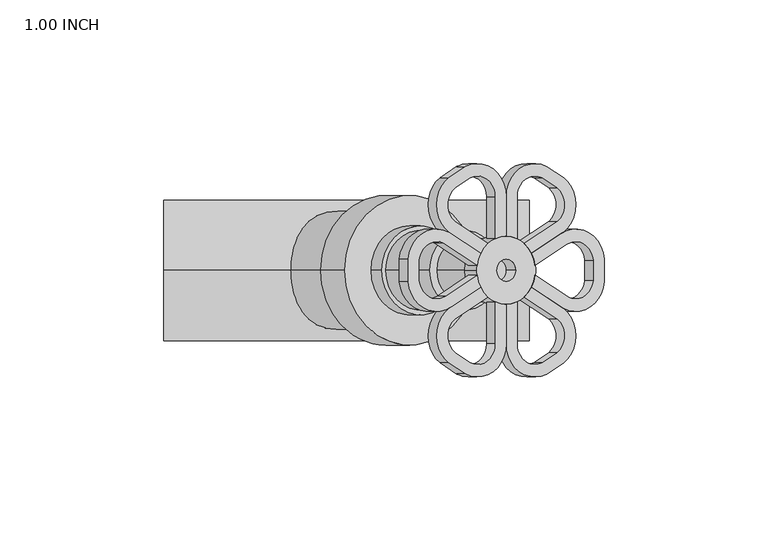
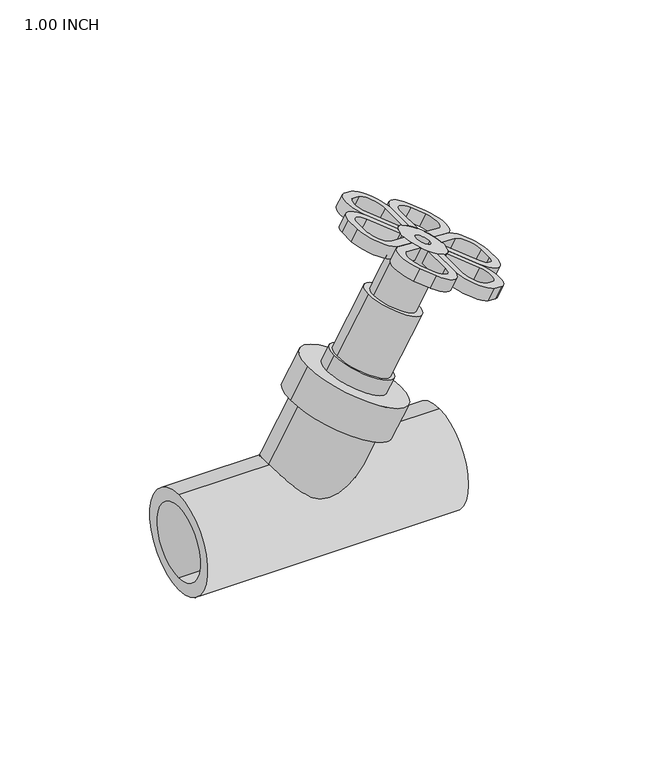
"""IFC4 building model written with IfcOpenShell, lengths in millimetres: valve geometry, Aquatherm - Inclined Check Valve without drain : 1.00 INCH."""

from ifc_helpers import new_model, si_unit, point, frame, frame_2d, origin, origin_2d, place, context, project, spatial, polyline, circle_curve, trimmed, segment, composite_curve, outline, extrude, source, transform, mapped, element, save
from ifc_brep_helpers import plane_surface, cylinder_surface, revolved_surface, advanced_brep


def valve_1_00_inch_02cf9404(model_context):
    return source(origin(), model_context, "Body", "SolidModel", [
        advanced_brep(
        [(123.3667275, 10.5951948, 86.0745316), (136.499744, 2.812243, 78.492181), (136.5198625, -4.0695455, 78.4805655), (124.1541595, -12.3087434, 85.6199075), (114.3647614, -5.7824779, 91.2718192), (115.4580816, -2.111949, 90.6405904), (125.6440611, -8.902602, 84.7597124), (133.2217492, -3.6900946, 80.3847322), (133.2377835, 2.4387005, 80.3754747), (125.0165059, 7.295638, 85.1220316), (115.4454846, 0.9149571, 90.6478633), (114.3371894, 4.5755028, 91.2877378), (126.0337275, 10.5951948, 90.6939111), (117.0041894, 4.5755028, 95.9071173), (118.1124846, 0.9149571, 95.2672428), (127.6835059, 7.295638, 89.7414111), (135.8832944, 2.4362397, 85.007261), (135.903563, -3.691799, 84.9955589), (128.3110611, -8.902602, 89.3790919), (118.1250816, -2.111949, 95.2599699), (117.0317614, -5.7824779, 95.8911987), (126.8211595, -12.3087434, 90.239287), (139.1720487, -4.0678412, 83.1084978), (139.1882331, 2.8147039, 83.0991537)],
        [
            (0, 1, circle_curve(frame((127.7586929, 1.8112639, 83.5388292), z_axis=(-0.49999999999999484, 0.0, -0.8660254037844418), x_axis=(0.4330127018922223, -0.866025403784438, -0.24999999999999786)), 10.1428098)),
            (1, 2, circle_curve(frame((106.5323937, -0.6194603, 95.7938387), z_axis=(-0.49999999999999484, 0.0, -0.8660254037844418), x_axis=(0.4330127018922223, -0.866025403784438, -0.24999999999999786)), 34.798)),
            (2, 3, circle_curve(frame((127.7643972, -3.0622214, 83.5355358), z_axis=(-0.49999999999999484, 0.0, -0.8660254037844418), x_axis=(0.4330127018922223, -0.866025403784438, -0.24999999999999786)), 10.1428098)),
            (3, 4),
            (4, 5, circle_curve(frame((106.5323937, -0.6194603, 95.7938387), z_axis=(0.49999999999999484, 0.0, 0.8660254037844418), x_axis=(0.41622412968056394, 0.8769321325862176, -0.2403071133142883)), 10.414)),
            (5, 6),
            (6, 7, circle_curve(frame((127.7643972, -3.0622214, 83.5355358), z_axis=(0.49999999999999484, 0.0, 0.8660254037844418), x_axis=(0.4330127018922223, -0.866025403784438, -0.24999999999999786)), 6.3328098)),
            (7, 8, circle_curve(frame((106.5323937, -0.6194603, 95.7938387), z_axis=(0.49999999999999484, 0.0, 0.8660254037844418), x_axis=(0.4330127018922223, -0.866025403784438, -0.24999999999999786)), 30.988)),
            (8, 9, circle_curve(frame((127.7586929, 1.8112639, 83.5388292), z_axis=(0.49999999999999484, 0.0, 0.8660254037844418), x_axis=(0.4330127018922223, -0.866025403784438, -0.24999999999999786)), 6.3328098)),
            (9, 10),
            (10, 11, circle_curve(frame((106.5266894, -0.6314972, 95.7971321), z_axis=(0.49999999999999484, 0.0, 0.8660254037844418), x_axis=(0.4330127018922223, -0.866025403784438, -0.24999999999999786)), 10.414)),
            (11, 0),
            (12, 13),
            (13, 14, circle_curve(frame((109.1936894, -0.6314972, 100.4165116), z_axis=(-0.49999999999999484, 0.0, -0.8660254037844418), x_axis=(0.4330127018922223, -0.866025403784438, -0.24999999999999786)), 10.414)),
            (14, 15),
            (15, 16, circle_curve(frame((130.4256929, 1.8112639, 88.1582087), z_axis=(-0.49999999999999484, 0.0, -0.8660254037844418), x_axis=(0.4330127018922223, -0.866025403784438, -0.24999999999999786)), 6.3328098)),
            (16, 17, circle_curve(frame((109.1993937, -0.6194603, 100.4132182), z_axis=(-0.49999999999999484, 0.0, -0.8660254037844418), x_axis=(0.4330127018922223, -0.866025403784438, -0.24999999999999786)), 30.988)),
            (17, 18, circle_curve(frame((130.4313972, -3.0622214, 88.1549153), z_axis=(-0.49999999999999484, 0.0, -0.8660254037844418), x_axis=(0.4330127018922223, -0.866025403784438, -0.24999999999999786)), 6.3328098)),
            (18, 19),
            (19, 20, circle_curve(frame((109.1993937, -0.6194603, 100.4132182), z_axis=(-0.49999999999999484, 0.0, -0.8660254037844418), x_axis=(0.41622412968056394, 0.8769321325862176, -0.2403071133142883)), 10.414)),
            (20, 21),
            (21, 22, circle_curve(frame((130.4313972, -3.0622214, 88.1549153), z_axis=(0.49999999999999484, 0.0, 0.8660254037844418), x_axis=(0.4330127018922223, -0.866025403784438, -0.24999999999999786)), 10.1428098)),
            (22, 23, circle_curve(frame((109.1993937, -0.6194603, 100.4132182), z_axis=(0.49999999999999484, 0.0, 0.8660254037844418), x_axis=(0.4330127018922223, -0.866025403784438, -0.24999999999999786)), 34.798)),
            (23, 12, circle_curve(frame((130.4256929, 1.8112639, 88.1582087), z_axis=(0.49999999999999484, 0.0, 0.8660254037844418), x_axis=(0.4330127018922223, -0.866025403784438, -0.24999999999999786)), 10.1428098)),
            (11, 13),
            (12, 0),
            (10, 14),
            (9, 15),
            (8, 16),
            (7, 17),
            (6, 18),
            (5, 19),
            (4, 20),
            (3, 21),
            (2, 22),
            (1, 23),
        ],
        [
            plane_surface(frame((132.1506584, -6.9726671, 81.0031267), z_axis=(-0.4999999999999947, 0.0, -0.8660254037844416), x_axis=(-0.7500000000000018, -0.5000000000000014, 0.43301270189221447))),
            plane_surface(frame((134.8176584, -6.9726671, 85.6225062), z_axis=(0.4999999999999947, 0.0, 0.8660254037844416), x_axis=(0.7500000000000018, 0.5000000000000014, -0.43301270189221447))),
            plane_surface(frame((114.3371894, 4.5755028, 91.2877378), z_axis=(-0.43301270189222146, 0.8660254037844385, 0.24999999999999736), x_axis=(0.49999999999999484, 0.0, 0.8660254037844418))),
            revolved_surface(polyline([(113.70308368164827, -9.650285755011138, 97.81301160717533), (111.0360836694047, -9.650285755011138, 93.19363208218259)]), (109.1936894, -0.6314972, 100.4165116), (0.49999999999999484, 0.0, 0.8660254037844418)),
            plane_surface(frame((125.0165059, 7.295638, 85.1220316), z_axis=(0.43301270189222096, -0.8660254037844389, -0.24999999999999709), x_axis=(0.49999999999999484, 0.0, 0.8660254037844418))),
            revolved_surface(polyline([(133.16787998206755, -3.6731102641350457, 86.57500625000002), (130.5008799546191, -3.6731102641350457, 81.95562669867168)]), (130.4256929, 1.8112639, 88.1582087), (0.49999999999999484, 0.0, 0.8660254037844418)),
            revolved_surface(polyline([(122.61759132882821, -27.455855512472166, 92.6662182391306), (119.95059130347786, -27.455855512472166, 88.04683869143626)]), (109.1993937, -0.6194603, 100.4132182), (0.49999999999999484, 0.0, 0.8660254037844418)),
            revolved_surface(polyline([(133.17358428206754, -8.546595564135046, 86.57171285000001), (130.5065842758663, -8.546595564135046, 81.95233333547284)]), (130.4313972, -3.0622214, 88.1549153), (0.49999999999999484, 0.0, 0.8660254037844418)),
            plane_surface(frame((115.4580816, -2.111949, 90.6405904), z_axis=(0.4330127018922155, 0.8660254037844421, -0.2499999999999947), x_axis=(0.49999999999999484, 0.0, 0.8660254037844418))),
            revolved_surface(polyline([(113.53395182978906, 8.51291092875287, 97.91065999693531), (110.86695178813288, 8.51291092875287, 93.29128042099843)]), (109.1993937, -0.6194603, 100.4132182), (0.49999999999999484, 0.0, 0.8660254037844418)),
            plane_surface(frame((124.1541595, -12.3087434, 85.6199075), z_axis=(-0.43301270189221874, -0.8660254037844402, 0.24999999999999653), x_axis=(0.49999999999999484, 0.0, 0.8660254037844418))),
            cylinder_surface(frame((130.4313972, -3.0622214, 88.1549153), z_axis=(-0.49999999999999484, 0.0, -0.8660254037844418), x_axis=(0.4330127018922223, -0.866025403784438, -0.24999999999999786)), 10.1428098),
            cylinder_surface(frame((109.1993937, -0.6194603, 100.4132182), z_axis=(-0.49999999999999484, 0.0, -0.8660254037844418), x_axis=(0.4330127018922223, -0.866025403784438, -0.24999999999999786)), 34.798),
            cylinder_surface(frame((130.4256929, 1.8112639, 88.1582087), z_axis=(-0.49999999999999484, 0.0, -0.8660254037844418), x_axis=(0.4330127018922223, -0.866025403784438, -0.24999999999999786)), 10.1428098),
        ],
        [
            (0, [[1, 2, 3, 4, 5, 6, 7, 8, 9, 10, 11, 12]]),
            (1, [[13, 14, 15, 16, 17, 18, 19, 20, 21, 22, 23, 24]]),
            (2, [[-12, 25, -13, 26]]),
            (3, [[-11, 27, -14, -25]]),
            (4, [[-10, 28, -15, -27]]),
            (5, [[-9, 29, -16, -28]]),
            (6, [[-8, 30, -17, -29]]),
            (7, [[-7, 31, -18, -30]]),
            (8, [[-6, 32, -19, -31]]),
            (9, [[-5, 33, -20, -32]]),
            (10, [[-4, 34, -21, -33]]),
            (11, [[-3, 35, -22, -34]]),
            (12, [[-2, 36, -23, -35]]),
            (13, [[-1, -26, -24, -36]]),
        ],
    ),
        advanced_brep(
        [(89.6866514, -11.8581892, 105.5197326), (76.5536349, -4.0752375, 113.1020832), (76.5335164, 2.8065511, 113.1136986), (88.8992194, 11.0457489, 105.9743567), (98.6886175, 4.5194835, 100.322445), (97.5952973, 0.8489546, 100.9536738), (87.4093178, 7.6396076, 106.8345518), (79.8316297, 2.4271002, 111.209532), (79.8155953, -3.7016949, 111.2187895), (88.036873, -8.5586324, 106.4722326), (97.6078943, -2.1779516, 100.9464008), (98.7161894, -5.8384972, 100.3065264), (92.3536514, -11.8581892, 110.1391121), (101.3831894, -5.8384972, 104.9259059), (100.2748943, -2.1779516, 105.5657804), (90.703873, -8.5586324, 111.0916121), (82.5040845, -3.6992341, 115.8257622), (82.4838159, 2.4288045, 115.8374643), (90.0763178, 7.6396076, 111.4539313), (100.2622973, 0.8489546, 105.5730533), (101.3556175, 4.5194835, 104.9418245), (91.5662194, 11.0457489, 110.5937362), (79.2153302, 2.8048467, 117.7245254), (79.1991458, -4.0776983, 117.7338695)],
        [
            (0, 1, circle_curve(frame((85.294686, -3.0742583, 108.055435), z_axis=(-0.49999999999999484, 0.0, -0.8660254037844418), x_axis=(-0.4330127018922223, 0.866025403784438, 0.24999999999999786)), 10.1428098)),
            (1, 2, circle_curve(frame((106.5209852, -0.6435341, 95.8004254), z_axis=(-0.49999999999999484, 0.0, -0.8660254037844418), x_axis=(-0.4330127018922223, 0.866025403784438, 0.24999999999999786)), 34.798)),
            (2, 3, circle_curve(frame((85.2889817, 1.7992269, 108.0587284), z_axis=(-0.49999999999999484, 0.0, -0.8660254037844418), x_axis=(-0.4330127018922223, 0.866025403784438, 0.24999999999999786)), 10.1428098)),
            (3, 4),
            (4, 5, circle_curve(frame((106.5209852, -0.6435341, 95.8004254), z_axis=(0.49999999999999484, 0.0, 0.8660254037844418), x_axis=(-0.41622412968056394, -0.8769321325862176, 0.2403071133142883)), 10.414)),
            (5, 6),
            (6, 7, circle_curve(frame((85.2889817, 1.7992269, 108.0587284), z_axis=(0.49999999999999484, 0.0, 0.8660254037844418), x_axis=(-0.4330127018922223, 0.866025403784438, 0.24999999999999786)), 6.3328098)),
            (7, 8, circle_curve(frame((106.5209852, -0.6435341, 95.8004254), z_axis=(0.49999999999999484, 0.0, 0.8660254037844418), x_axis=(-0.4330127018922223, 0.866025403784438, 0.24999999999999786)), 30.988)),
            (8, 9, circle_curve(frame((85.294686, -3.0742583, 108.055435), z_axis=(0.49999999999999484, 0.0, 0.8660254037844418), x_axis=(-0.4330127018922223, 0.866025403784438, 0.24999999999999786)), 6.3328098)),
            (9, 10),
            (10, 11, circle_curve(frame((106.5266894, -0.6314972, 95.7971321), z_axis=(0.49999999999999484, 0.0, 0.8660254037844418), x_axis=(-0.4330127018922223, 0.866025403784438, 0.24999999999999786)), 10.414)),
            (11, 0),
            (12, 13),
            (13, 14, circle_curve(frame((109.1936894, -0.6314972, 100.4165116), z_axis=(-0.49999999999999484, 0.0, -0.8660254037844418), x_axis=(-0.4330127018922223, 0.866025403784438, 0.24999999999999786)), 10.414)),
            (14, 15),
            (15, 16, circle_curve(frame((87.961686, -3.0742583, 112.6748145), z_axis=(-0.49999999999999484, 0.0, -0.8660254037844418), x_axis=(-0.4330127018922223, 0.866025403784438, 0.24999999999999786)), 6.3328098)),
            (16, 17, circle_curve(frame((109.1879852, -0.6435341, 100.4198049), z_axis=(-0.49999999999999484, 0.0, -0.8660254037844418), x_axis=(-0.4330127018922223, 0.866025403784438, 0.24999999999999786)), 30.988)),
            (17, 18, circle_curve(frame((87.9559817, 1.7992269, 112.6781079), z_axis=(-0.49999999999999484, 0.0, -0.8660254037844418), x_axis=(-0.4330127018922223, 0.866025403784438, 0.24999999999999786)), 6.3328098)),
            (18, 19),
            (19, 20, circle_curve(frame((109.1879852, -0.6435341, 100.4198049), z_axis=(-0.49999999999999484, 0.0, -0.8660254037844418), x_axis=(-0.41622412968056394, -0.8769321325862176, 0.2403071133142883)), 10.414)),
            (20, 21),
            (21, 22, circle_curve(frame((87.9559817, 1.7992269, 112.6781079), z_axis=(0.49999999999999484, 0.0, 0.8660254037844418), x_axis=(-0.4330127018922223, 0.866025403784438, 0.24999999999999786)), 10.1428098)),
            (22, 23, circle_curve(frame((109.1879852, -0.6435341, 100.4198049), z_axis=(0.49999999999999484, 0.0, 0.8660254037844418), x_axis=(-0.4330127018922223, 0.866025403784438, 0.24999999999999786)), 34.798)),
            (23, 12, circle_curve(frame((87.961686, -3.0742583, 112.6748145), z_axis=(0.49999999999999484, 0.0, 0.8660254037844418), x_axis=(-0.4330127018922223, 0.866025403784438, 0.24999999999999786)), 10.1428098)),
            (0, 12),
            (23, 1),
            (22, 2),
            (21, 3),
            (20, 4),
            (19, 5),
            (18, 6),
            (17, 7),
            (16, 8),
            (15, 9),
            (14, 10),
            (13, 11),
        ],
        [
            plane_surface(frame((80.9027205, 5.7096726, 110.5911375), z_axis=(-0.4999999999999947, 0.0, -0.8660254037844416), x_axis=(0.7500000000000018, 0.5000000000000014, -0.43301270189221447))),
            plane_surface(frame((83.5697205, 5.7096726, 115.210517), z_axis=(0.4999999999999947, 0.0, 0.8660254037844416), x_axis=(-0.7500000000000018, -0.5000000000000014, 0.43301270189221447))),
            cylinder_surface(frame((87.961686, -3.0742583, 112.6748145), z_axis=(-0.49999999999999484, 0.0, -0.8660254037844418), x_axis=(-0.4330127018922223, 0.866025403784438, 0.24999999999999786)), 10.1428098),
            cylinder_surface(frame((109.1879852, -0.6435341, 100.4198049), z_axis=(-0.49999999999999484, 0.0, -0.8660254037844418), x_axis=(-0.4330127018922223, 0.866025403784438, 0.24999999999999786)), 34.798),
            cylinder_surface(frame((87.9559817, 1.7992269, 112.6781079), z_axis=(-0.49999999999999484, 0.0, -0.8660254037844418), x_axis=(-0.4330127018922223, 0.866025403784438, 0.24999999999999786)), 10.1428098),
            plane_surface(frame((88.8992194, 11.0457489, 105.9743567), z_axis=(0.43301270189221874, 0.8660254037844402, -0.24999999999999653), x_axis=(0.49999999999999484, 0.0, 0.8660254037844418))),
            revolved_surface(polyline([(104.8534271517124, -9.77590532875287, 102.92236324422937), (102.1864271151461, -9.77590532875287, 98.30298367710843)]), (109.1879852, -0.6435341, 100.4198049), (0.49999999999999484, 0.0, 0.8660254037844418)),
            plane_surface(frame((97.5952973, 0.8489546, 100.9536738), z_axis=(-0.43301270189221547, -0.8660254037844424, 0.24999999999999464), x_axis=(0.49999999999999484, 0.0, 0.8660254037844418))),
            revolved_surface(polyline([(85.2137946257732, 7.283601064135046, 114.26131036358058), (82.5467945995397, 7.283601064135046, 109.64193081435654)]), (87.9559817, 1.7992269, 112.6781079), (0.49999999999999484, 0.0, 0.8660254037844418)),
            revolved_surface(polyline([(95.76978762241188, 26.192861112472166, 108.16680494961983), (93.10278759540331, 26.192861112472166, 103.54742539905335)]), (109.1879852, -0.6435341, 100.4198049), (0.49999999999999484, 0.0, 0.8660254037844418)),
            revolved_surface(polyline([(85.21949892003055, 2.410115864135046, 114.258016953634), (82.55249891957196, 2.410115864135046, 109.63863744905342)]), (87.961686, -3.0742583, 112.6748145), (0.49999999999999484, 0.0, 0.8660254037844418)),
            plane_surface(frame((88.036873, -8.5586324, 106.4722326), z_axis=(-0.43301270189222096, 0.8660254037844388, 0.24999999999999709), x_axis=(0.49999999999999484, 0.0, 0.8660254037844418))),
            revolved_surface(polyline([(104.68429514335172, 8.387291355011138, 103.02001163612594), (102.01729510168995, 8.387291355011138, 98.40063206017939)]), (109.1936894, -0.6314972, 100.4165116), (0.49999999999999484, 0.0, 0.8660254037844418)),
            plane_surface(frame((98.7161894, -5.8384972, 100.3065264), z_axis=(0.43301270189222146, -0.8660254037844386, -0.24999999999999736), x_axis=(0.49999999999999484, 0.0, 0.8660254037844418))),
        ],
        [
            (0, [[1, 2, 3, 4, 5, 6, 7, 8, 9, 10, 11, 12]]),
            (1, [[13, 14, 15, 16, 17, 18, 19, 20, 21, 22, 23, 24]]),
            (2, [[-1, 25, -24, 26]]),
            (3, [[-2, -26, -23, 27]]),
            (4, [[-3, -27, -22, 28]]),
            (5, [[-4, -28, -21, 29]]),
            (6, [[-5, -29, -20, 30]]),
            (7, [[-6, -30, -19, 31]]),
            (8, [[-7, -31, -18, 32]]),
            (9, [[-8, -32, -17, 33]]),
            (10, [[-9, -33, -16, 34]]),
            (11, [[-10, -34, -15, 35]]),
            (12, [[-11, -35, -14, 36]]),
            (13, [[-12, -36, -13, -25]]),
        ],
    ),
        advanced_brep(
        [(106.5266894, 21.8218868, 95.7971321), (106.5266894, 9.7825028, 95.7971321), (103.2271327, 9.0605251, 97.7021321), (103.2271327, 21.8218868, 97.7021321), (95.4826896, 27.5919762, 102.1733883), (90.8765264, 24.5482255, 104.832758), (90.764675, 14.350322, 104.8973354), (100.9506545, 7.559669, 99.0164574), (98.7444179, 4.6310844, 100.2902286), (88.9550198, 11.1573498, 105.9421403), (88.9602518, 27.6286901, 105.9391196), (94.1140684, 31.086147, 102.9635622), (109.1936894, 21.8218868, 100.4165116), (96.7899674, 31.0634274, 107.5778039), (91.6185667, 27.6426517, 110.5635135), (91.6220198, 11.1573498, 110.5615198), (101.4114179, 4.6310844, 104.9096081), (103.6176545, 7.559669, 103.6358369), (93.431675, 14.350322, 109.5167149), (93.5522115, 24.5342638, 109.4471231), (98.1407907, 27.6146957, 106.7979057), (105.8941327, 21.8218868, 102.3215116), (105.8941327, 9.0605251, 102.3215116), (109.1936894, 9.7825028, 100.4165116)],
        [
            (0, 1),
            (1, 2, circle_curve(frame((106.5266894, -0.6314972, 95.7971321), z_axis=(0.49999999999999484, 0.0, 0.8660254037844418), x_axis=(-0.8660254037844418, 0.0, 0.49999999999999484)), 10.414)),
            (2, 3),
            (3, 4, circle_curve(frame((97.7427585, 21.8218868, 100.868537), z_axis=(0.49999999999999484, 0.0, 0.8660254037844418), x_axis=(-0.8660254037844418, 0.0, 0.49999999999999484)), 6.3328098)),
            (4, 5, circle_curve(frame((106.532865, -0.6197745, 95.7935666), z_axis=(0.49999999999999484, 0.0, 0.8660254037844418), x_axis=(-0.8660254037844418, 0.0, 0.49999999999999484)), 30.988)),
            (5, 6, circle_curve(frame((94.0847925, 19.3908484, 102.9804647), z_axis=(0.49999999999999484, 0.0, 0.8660254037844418), x_axis=(-0.8660254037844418, 0.0, 0.49999999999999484)), 6.3328098)),
            (6, 7),
            (7, 8, circle_curve(frame((106.532865, -0.6197745, 95.7935666), z_axis=(0.4999999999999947, 0.0, 0.8660254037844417), x_axis=(0.4495870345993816, 0.8546901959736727, -0.2595691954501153)), 10.414)),
            (8, 9),
            (9, 10, circle_curve(frame((94.0847925, 19.3908484, 102.9804647), z_axis=(-0.49999999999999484, 0.0, -0.8660254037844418), x_axis=(-0.8660254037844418, 0.0, 0.49999999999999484)), 10.1428098)),
            (10, 11, circle_curve(frame((106.532865, -0.6197745, 95.7935666), z_axis=(-0.49999999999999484, 0.0, -0.8660254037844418), x_axis=(-0.8660254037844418, 0.0, 0.49999999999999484)), 34.798)),
            (11, 0, circle_curve(frame((97.7427585, 21.8218868, 100.868537), z_axis=(-0.49999999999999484, 0.0, -0.8660254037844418), x_axis=(-0.8660254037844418, 0.0, 0.49999999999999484)), 10.1428098)),
            (12, 13, circle_curve(frame((100.4097585, 21.8218868, 105.4879165), z_axis=(0.49999999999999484, 0.0, 0.8660254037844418), x_axis=(-0.8660254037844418, 0.0, 0.49999999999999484)), 10.1428098)),
            (13, 14, circle_curve(frame((109.199865, -0.6197745, 100.4129461), z_axis=(0.49999999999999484, 0.0, 0.8660254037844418), x_axis=(-0.8660254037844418, 0.0, 0.49999999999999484)), 34.798)),
            (14, 15, circle_curve(frame((96.7517925, 19.3908484, 107.5998442), z_axis=(0.49999999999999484, 0.0, 0.8660254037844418), x_axis=(-0.8660254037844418, 0.0, 0.49999999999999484)), 10.1428098)),
            (15, 16),
            (16, 17, circle_curve(frame((109.199865, -0.6197745, 100.4129461), z_axis=(-0.4999999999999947, 0.0, -0.8660254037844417), x_axis=(0.4495870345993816, 0.8546901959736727, -0.2595691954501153)), 10.414)),
            (17, 18),
            (18, 19, circle_curve(frame((96.7517925, 19.3908484, 107.5998442), z_axis=(-0.49999999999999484, 0.0, -0.8660254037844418), x_axis=(-0.8660254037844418, 0.0, 0.49999999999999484)), 6.3328098)),
            (19, 20, circle_curve(frame((109.199865, -0.6197745, 100.4129461), z_axis=(-0.49999999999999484, 0.0, -0.8660254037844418), x_axis=(-0.8660254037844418, 0.0, 0.49999999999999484)), 30.988)),
            (20, 21, circle_curve(frame((100.4097585, 21.8218868, 105.4879165), z_axis=(-0.49999999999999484, 0.0, -0.8660254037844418), x_axis=(-0.8660254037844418, 0.0, 0.49999999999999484)), 6.3328098)),
            (21, 22),
            (22, 23, circle_curve(frame((109.1936894, -0.6314972, 100.4165116), z_axis=(-0.49999999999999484, 0.0, -0.8660254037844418), x_axis=(-0.8660254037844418, 0.0, 0.49999999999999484)), 10.414)),
            (23, 12),
            (11, 13),
            (12, 0),
            (10, 14),
            (9, 15),
            (8, 16),
            (7, 17),
            (6, 18),
            (5, 19),
            (4, 20),
            (3, 21),
            (2, 22),
            (1, 23),
        ],
        [
            plane_surface(frame((106.5266894, 7.6235028, 95.7971321), z_axis=(-0.49999999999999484, 0.0, -0.8660254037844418), x_axis=(0.0, -1.0, 0.0))),
            plane_surface(frame((109.1936894, 7.6235028, 100.4165116), z_axis=(0.49999999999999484, 0.0, 0.8660254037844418), x_axis=(0.0, 1.0, 0.0))),
            cylinder_surface(frame((100.4097585, 21.8218868, 105.4879165), z_axis=(-0.49999999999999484, 0.0, -0.8660254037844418), x_axis=(-0.8660254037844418, 0.0, 0.49999999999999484)), 10.1428098),
            cylinder_surface(frame((109.199865, -0.6197745, 100.4129461), z_axis=(-0.49999999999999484, 0.0, -0.8660254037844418), x_axis=(-0.8660254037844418, 0.0, 0.49999999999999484)), 34.798),
            cylinder_surface(frame((96.7517925, 19.3908484, 107.5998442), z_axis=(-0.49999999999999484, 0.0, -0.8660254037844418), x_axis=(-0.8660254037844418, 0.0, 0.49999999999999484)), 10.1428098),
            plane_surface(frame((98.7444179, 4.6310844, 100.2902286), z_axis=(-0.433012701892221, -0.8660254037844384, 0.24999999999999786), x_axis=(0.49999999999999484, 0.0, 0.8660254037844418))),
            revolved_surface(polyline([(113.88186440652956, 8.280969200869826, 97.70979254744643), (111.21486436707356, 8.280969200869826, 93.09041297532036)]), (109.199865, -0.6197745, 100.4129461), (0.49999999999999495, 0.0, 0.866025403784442)),
            plane_surface(frame((90.764675, 14.350322, 104.8973354), z_axis=(0.4330127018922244, 0.8660254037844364, -0.2499999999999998), x_axis=(0.49999999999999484, 0.0, 0.8660254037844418))),
            revolved_surface(polyline([(91.26741833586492, 19.3908484, 110.76624909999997), (88.60041832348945, 19.3908484, 106.14686957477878)]), (96.7517925, 19.3908484, 107.5998442), (0.49999999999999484, 0.0, 0.8660254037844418)),
            revolved_surface(polyline([(82.36346982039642, -0.6197745, 115.9069461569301), (79.69646977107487, -0.6197745, 111.28756656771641)]), (109.199865, -0.6197745, 100.4129461), (0.49999999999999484, 0.0, 0.8660254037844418)),
            revolved_surface(polyline([(94.92538434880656, 21.8218868, 108.65432142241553), (92.258384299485, 21.8218868, 104.03494183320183)]), (100.4097585, 21.8218868, 105.4879165), (0.49999999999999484, 0.0, 0.8660254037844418)),
            plane_surface(frame((103.2271327, 9.0605251, 97.7021321), z_axis=(-0.8660254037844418, 0.0, 0.49999999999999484), x_axis=(0.49999999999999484, 0.0, 0.8660254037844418))),
            revolved_surface(polyline([(100.17490086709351, -0.6314972, 105.62351163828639), (97.50790084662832, -0.6314972, 101.00413209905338)]), (109.1936894, -0.6314972, 100.4165116), (0.49999999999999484, 0.0, 0.8660254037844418)),
            plane_surface(frame((106.5266894, 21.8218868, 95.7971321), z_axis=(0.8660254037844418, 0.0, -0.49999999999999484), x_axis=(0.49999999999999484, 0.0, 0.8660254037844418))),
        ],
        [
            (0, [[1, 2, 3, 4, 5, 6, 7, 8, 9, 10, 11, 12]]),
            (1, [[13, 14, 15, 16, 17, 18, 19, 20, 21, 22, 23, 24]]),
            (2, [[-12, 25, -13, 26]]),
            (3, [[-11, 27, -14, -25]]),
            (4, [[-10, 28, -15, -27]]),
            (5, [[-9, 29, -16, -28]]),
            (6, [[-8, 30, -17, -29]]),
            (7, [[-7, 31, -18, -30]]),
            (8, [[-6, 32, -19, -31]]),
            (9, [[-5, 33, -20, -32]]),
            (10, [[-4, 34, -21, -33]]),
            (11, [[-3, 35, -22, -34]]),
            (12, [[-2, 36, -23, -35]]),
            (13, [[-1, -26, -24, -36]]),
        ],
    ),
        advanced_brep(
        [(106.5266894, 21.8218868, 95.7971321), (118.9304115, 31.0634274, 88.6358398), (124.1018122, 27.6426517, 85.6501302), (124.0983591, 11.1573498, 85.6521239), (114.3089609, 4.6310844, 91.3040355), (112.1027244, 7.559669, 92.5778068), (122.2887039, 14.350322, 86.6969288), (122.1681674, 24.5342638, 86.7665206), (117.5795882, 27.6146957, 89.415738), (109.8262462, 21.8218868, 93.8921321), (109.8262462, 9.0605251, 93.8921321), (106.5266894, 9.7825028, 95.7971321), (109.1936894, 21.8218868, 100.4165116), (109.1936894, 9.7825028, 100.4165116), (112.4932462, 9.0605251, 98.5115116), (112.4932462, 21.8218868, 98.5115116), (120.2376892, 27.5919762, 94.0402553), (124.8438525, 24.5482255, 91.3808857), (124.9557039, 14.350322, 91.3163083), (114.7697244, 7.559669, 97.1971863), (116.9759609, 4.6310844, 95.923415), (126.7653591, 11.1573498, 90.2715034), (126.760127, 27.6286901, 90.2745241), (121.6063105, 31.086147, 93.2500815)],
        [
            (0, 1, circle_curve(frame((115.3106204, 21.8218868, 90.7257272), z_axis=(-0.49999999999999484, 0.0, -0.8660254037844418), x_axis=(0.8660254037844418, 0.0, -0.49999999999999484)), 10.1428098)),
            (1, 2, circle_curve(frame((106.5205139, -0.6197745, 95.8006976), z_axis=(-0.49999999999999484, 0.0, -0.8660254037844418), x_axis=(0.8660254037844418, 0.0, -0.49999999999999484)), 34.798)),
            (2, 3, circle_curve(frame((118.9685864, 19.3908484, 88.6137995), z_axis=(-0.49999999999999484, 0.0, -0.8660254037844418), x_axis=(0.8660254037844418, 0.0, -0.49999999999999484)), 10.1428098)),
            (3, 4),
            (4, 5, circle_curve(frame((106.5205139, -0.6197745, 95.8006976), z_axis=(0.4999999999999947, 0.0, 0.8660254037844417), x_axis=(-0.4495870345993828, 0.854690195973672, 0.2595691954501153)), 10.414)),
            (5, 6),
            (6, 7, circle_curve(frame((118.9685864, 19.3908484, 88.6137995), z_axis=(0.49999999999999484, 0.0, 0.8660254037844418), x_axis=(0.8660254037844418, 0.0, -0.49999999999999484)), 6.3328098)),
            (7, 8, circle_curve(frame((106.5205139, -0.6197745, 95.8006976), z_axis=(0.49999999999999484, 0.0, 0.8660254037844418), x_axis=(0.8660254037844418, 0.0, -0.49999999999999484)), 30.988)),
            (8, 9, circle_curve(frame((115.3106204, 21.8218868, 90.7257272), z_axis=(0.49999999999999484, 0.0, 0.8660254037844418), x_axis=(0.8660254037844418, 0.0, -0.49999999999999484)), 6.3328098)),
            (9, 10),
            (10, 11, circle_curve(frame((106.5266894, -0.6314972, 95.7971321), z_axis=(0.49999999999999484, 0.0, 0.8660254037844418), x_axis=(0.8660254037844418, 0.0, -0.49999999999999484)), 10.414)),
            (11, 0),
            (12, 13),
            (13, 14, circle_curve(frame((109.1936894, -0.6314972, 100.4165116), z_axis=(-0.49999999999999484, 0.0, -0.8660254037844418), x_axis=(0.8660254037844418, 0.0, -0.49999999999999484)), 10.414)),
            (14, 15),
            (15, 16, circle_curve(frame((117.9776204, 21.8218868, 95.3451067), z_axis=(-0.49999999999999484, 0.0, -0.8660254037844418), x_axis=(0.8660254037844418, 0.0, -0.49999999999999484)), 6.3328098)),
            (16, 17, circle_curve(frame((109.1875139, -0.6197745, 100.4200771), z_axis=(-0.49999999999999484, 0.0, -0.8660254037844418), x_axis=(0.8660254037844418, 0.0, -0.49999999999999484)), 30.988)),
            (17, 18, circle_curve(frame((121.6355864, 19.3908484, 93.233179), z_axis=(-0.49999999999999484, 0.0, -0.8660254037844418), x_axis=(0.8660254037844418, 0.0, -0.49999999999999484)), 6.3328098)),
            (18, 19),
            (19, 20, circle_curve(frame((109.1875139, -0.6197745, 100.4200771), z_axis=(-0.4999999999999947, 0.0, -0.8660254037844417), x_axis=(-0.4495870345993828, 0.854690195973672, 0.2595691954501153)), 10.414)),
            (20, 21),
            (21, 22, circle_curve(frame((121.6355864, 19.3908484, 93.233179), z_axis=(0.49999999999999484, 0.0, 0.8660254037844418), x_axis=(0.8660254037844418, 0.0, -0.49999999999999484)), 10.1428098)),
            (22, 23, circle_curve(frame((109.1875139, -0.6197745, 100.4200771), z_axis=(0.49999999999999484, 0.0, 0.8660254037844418), x_axis=(0.8660254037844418, 0.0, -0.49999999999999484)), 34.798)),
            (23, 12, circle_curve(frame((117.9776204, 21.8218868, 95.3451067), z_axis=(0.49999999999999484, 0.0, 0.8660254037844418), x_axis=(0.8660254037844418, 0.0, -0.49999999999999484)), 10.1428098)),
            (11, 13),
            (12, 0),
            (10, 14),
            (9, 15),
            (8, 16),
            (7, 17),
            (6, 18),
            (5, 19),
            (4, 20),
            (3, 21),
            (2, 22),
            (1, 23),
        ],
        [
            plane_surface(frame((124.0945513, 21.8218868, 85.6543223), z_axis=(-0.49999999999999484, 0.0, -0.8660254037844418), x_axis=(0.0, -1.0, 0.0))),
            plane_surface(frame((126.7615513, 21.8218868, 90.2737018), z_axis=(0.49999999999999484, 0.0, 0.8660254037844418), x_axis=(0.0, 1.0, 0.0))),
            plane_surface(frame((106.5266894, 9.7825028, 95.7971321), z_axis=(-0.8660254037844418, 0.0, 0.49999999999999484), x_axis=(0.49999999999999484, 0.0, 0.8660254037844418))),
            revolved_surface(polyline([(118.21247795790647, -0.6314972, 95.20951160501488), (115.54547795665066, -0.6314972, 90.59013209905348)]), (109.1936894, -0.6314972, 100.4165116), (0.49999999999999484, 0.0, 0.8660254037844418)),
            plane_surface(frame((109.8262462, 21.8218868, 93.8921321), z_axis=(0.8660254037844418, 0.0, -0.49999999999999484), x_axis=(0.49999999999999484, 0.0, 0.8660254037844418))),
            revolved_surface(polyline([(123.46199456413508, 21.8218868, 92.17870180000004), (120.79499455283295, 21.8218868, 87.5593222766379)]), (117.9776204, 21.8218868, 95.3451067), (0.49999999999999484, 0.0, 0.8660254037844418)),
            revolved_surface(polyline([(136.02390911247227, -0.6197745, 84.92607710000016), (133.35690908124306, -0.6197745, 80.30669754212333)]), (109.1875139, -0.6197745, 100.4200771), (0.49999999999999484, 0.0, 0.8660254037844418)),
            revolved_surface(polyline([(127.11996057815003, 19.3908484, 90.06677412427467), (124.45296056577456, 19.3908484, 85.44739459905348)]), (121.6355864, 19.3908484, 93.233179), (0.49999999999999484, 0.0, 0.8660254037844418)),
            plane_surface(frame((112.1027244, 7.559669, 92.5778068), z_axis=(-0.4330127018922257, 0.8660254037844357, 0.24999999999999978), x_axis=(0.49999999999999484, 0.0, 0.8660254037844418))),
            revolved_surface(polyline([(104.50551452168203, 8.28096920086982, 103.1232307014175), (101.83851446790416, 8.28096920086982, 98.50385110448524)]), (109.1875139, -0.6197745, 100.4200771), (0.49999999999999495, 0.0, 0.866025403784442)),
            plane_surface(frame((124.0983591, 11.1573498, 85.6521239), z_axis=(0.4330127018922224, -0.8660254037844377, -0.24999999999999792), x_axis=(0.49999999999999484, 0.0, 0.8660254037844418))),
            cylinder_surface(frame((121.6355864, 19.3908484, 93.233179), z_axis=(-0.49999999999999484, 0.0, -0.8660254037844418), x_axis=(0.8660254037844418, 0.0, -0.49999999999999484)), 10.1428098),
            cylinder_surface(frame((109.1875139, -0.6197745, 100.4200771), z_axis=(-0.49999999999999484, 0.0, -0.8660254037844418), x_axis=(0.8660254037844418, 0.0, -0.49999999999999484)), 34.798),
            cylinder_surface(frame((117.9776204, 21.8218868, 95.3451067), z_axis=(-0.49999999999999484, 0.0, -0.8660254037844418), x_axis=(0.8660254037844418, 0.0, -0.49999999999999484)), 10.1428098),
        ],
        [
            (0, [[1, 2, 3, 4, 5, 6, 7, 8, 9, 10, 11, 12]]),
            (1, [[13, 14, 15, 16, 17, 18, 19, 20, 21, 22, 23, 24]]),
            (2, [[-12, 25, -13, 26]]),
            (3, [[-11, 27, -14, -25]]),
            (4, [[-10, 28, -15, -27]]),
            (5, [[-9, 29, -16, -28]]),
            (6, [[-8, 30, -17, -29]]),
            (7, [[-7, 31, -18, -30]]),
            (8, [[-6, 32, -19, -31]]),
            (9, [[-5, 33, -20, -32]]),
            (10, [[-4, 34, -21, -33]]),
            (11, [[-3, 35, -22, -34]]),
            (12, [[-2, 36, -23, -35]]),
            (13, [[-1, -26, -24, -36]]),
        ],
    ),
        advanced_brep(
        [(106.5266894, -23.0848812, 95.7971321), (94.1229674, -32.3264219, 102.9584244), (88.9515667, -28.9056461, 105.9441339), (88.9550198, -12.4203442, 105.9421403), (98.7444179, -5.8940788, 100.2902286), (100.9506545, -8.8226635, 99.0164574), (90.764675, -15.6133165, 104.8973354), (90.8852115, -25.7972583, 104.8277436), (95.4737907, -28.8776902, 102.1785262), (103.2271327, -23.0848812, 97.7021321), (103.2271327, -10.3235195, 97.7021321), (106.5266894, -11.0454972, 95.7971321), (109.1936894, -23.0848812, 100.4165116), (109.1936894, -11.0454972, 100.4165116), (105.8941327, -10.3235195, 102.3215116), (105.8941327, -23.0848812, 102.3215116), (98.1496896, -28.8549706, 106.7927679), (93.5435264, -25.8112199, 109.4521375), (93.431675, -15.6133165, 109.5167149), (103.6176545, -8.8226635, 103.6358369), (101.4114179, -5.8940788, 104.9096081), (91.6220198, -12.4203442, 110.5615198), (91.6272518, -28.8916845, 110.5584991), (96.7810684, -32.3491414, 107.5829417)],
        [
            (0, 1, circle_curve(frame((97.7427585, -23.0848812, 100.868537), z_axis=(-0.49999999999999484, 0.0, -0.8660254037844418), x_axis=(-0.8660254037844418, 0.0, 0.49999999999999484)), 10.1428098)),
            (1, 2, circle_curve(frame((106.532865, -0.6432199, 95.7935666), z_axis=(-0.49999999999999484, 0.0, -0.8660254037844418), x_axis=(-0.8660254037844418, 0.0, 0.49999999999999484)), 34.798)),
            (2, 3, circle_curve(frame((94.0847925, -20.6538429, 102.9804647), z_axis=(-0.49999999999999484, 0.0, -0.8660254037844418), x_axis=(-0.8660254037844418, 0.0, 0.49999999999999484)), 10.1428098)),
            (3, 4),
            (4, 5, circle_curve(frame((106.532865, -0.6432199, 95.7935666), z_axis=(0.4999999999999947, 0.0, 0.8660254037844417), x_axis=(0.4495870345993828, -0.854690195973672, -0.2595691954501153)), 10.414)),
            (5, 6),
            (6, 7, circle_curve(frame((94.0847925, -20.6538429, 102.9804647), z_axis=(0.49999999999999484, 0.0, 0.8660254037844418), x_axis=(-0.8660254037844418, 0.0, 0.49999999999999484)), 6.3328098)),
            (7, 8, circle_curve(frame((106.532865, -0.6432199, 95.7935666), z_axis=(0.49999999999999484, 0.0, 0.8660254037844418), x_axis=(-0.8660254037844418, 0.0, 0.49999999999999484)), 30.988)),
            (8, 9, circle_curve(frame((97.7427585, -23.0848812, 100.868537), z_axis=(0.49999999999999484, 0.0, 0.8660254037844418), x_axis=(-0.8660254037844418, 0.0, 0.49999999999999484)), 6.3328098)),
            (9, 10),
            (10, 11, circle_curve(frame((106.5266894, -0.6314972, 95.7971321), z_axis=(0.49999999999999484, 0.0, 0.8660254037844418), x_axis=(-0.8660254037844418, 0.0, 0.49999999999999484)), 10.414)),
            (11, 0),
            (12, 13),
            (13, 14, circle_curve(frame((109.1936894, -0.6314972, 100.4165116), z_axis=(-0.49999999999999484, 0.0, -0.8660254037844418), x_axis=(-0.8660254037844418, 0.0, 0.49999999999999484)), 10.414)),
            (14, 15),
            (15, 16, circle_curve(frame((100.4097585, -23.0848812, 105.4879165), z_axis=(-0.49999999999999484, 0.0, -0.8660254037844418), x_axis=(-0.8660254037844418, 0.0, 0.49999999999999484)), 6.3328098)),
            (16, 17, circle_curve(frame((109.199865, -0.6432199, 100.4129461), z_axis=(-0.49999999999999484, 0.0, -0.8660254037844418), x_axis=(-0.8660254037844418, 0.0, 0.49999999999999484)), 30.988)),
            (17, 18, circle_curve(frame((96.7517925, -20.6538429, 107.5998442), z_axis=(-0.49999999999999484, 0.0, -0.8660254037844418), x_axis=(-0.8660254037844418, 0.0, 0.49999999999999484)), 6.3328098)),
            (18, 19),
            (19, 20, circle_curve(frame((109.199865, -0.6432199, 100.4129461), z_axis=(-0.4999999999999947, 0.0, -0.8660254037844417), x_axis=(0.4495870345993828, -0.854690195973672, -0.2595691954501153)), 10.414)),
            (20, 21),
            (21, 22, circle_curve(frame((96.7517925, -20.6538429, 107.5998442), z_axis=(0.49999999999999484, 0.0, 0.8660254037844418), x_axis=(-0.8660254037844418, 0.0, 0.49999999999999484)), 10.1428098)),
            (22, 23, circle_curve(frame((109.199865, -0.6432199, 100.4129461), z_axis=(0.49999999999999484, 0.0, 0.8660254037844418), x_axis=(-0.8660254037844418, 0.0, 0.49999999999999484)), 34.798)),
            (23, 12, circle_curve(frame((100.4097585, -23.0848812, 105.4879165), z_axis=(0.49999999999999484, 0.0, 0.8660254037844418), x_axis=(-0.8660254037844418, 0.0, 0.49999999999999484)), 10.1428098)),
            (0, 12),
            (23, 1),
            (22, 2),
            (21, 3),
            (20, 4),
            (19, 5),
            (18, 6),
            (17, 7),
            (16, 8),
            (15, 9),
            (14, 10),
            (13, 11),
        ],
        [
            plane_surface(frame((88.9588276, -23.0848812, 105.9399419), z_axis=(-0.49999999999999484, 0.0, -0.8660254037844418), x_axis=(0.0, 1.0, 0.0))),
            plane_surface(frame((91.6258276, -23.0848812, 110.5593214), z_axis=(0.49999999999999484, 0.0, 0.8660254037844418), x_axis=(0.0, -1.0, 0.0))),
            cylinder_surface(frame((100.4097585, -23.0848812, 105.4879165), z_axis=(-0.49999999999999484, 0.0, -0.8660254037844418), x_axis=(-0.8660254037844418, 0.0, 0.49999999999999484)), 10.1428098),
            cylinder_surface(frame((109.199865, -0.6432199, 100.4129461), z_axis=(-0.49999999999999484, 0.0, -0.8660254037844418), x_axis=(-0.8660254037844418, 0.0, 0.49999999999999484)), 34.798),
            cylinder_surface(frame((96.7517925, -20.6538429, 107.5998442), z_axis=(-0.49999999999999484, 0.0, -0.8660254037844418), x_axis=(-0.8660254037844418, 0.0, 0.49999999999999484)), 10.1428098),
            plane_surface(frame((88.9550198, -12.4203442, 105.9421403), z_axis=(-0.4330127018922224, 0.8660254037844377, 0.24999999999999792), x_axis=(0.49999999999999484, 0.0, 0.8660254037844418))),
            revolved_surface(polyline([(113.88186440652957, -9.54396360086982, 97.70979254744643), (111.21486436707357, -9.54396360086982, 93.09041297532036)]), (109.199865, -0.6432199, 100.4129461), (0.49999999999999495, 0.0, 0.866025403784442)),
            plane_surface(frame((100.9506545, -8.8226635, 99.0164574), z_axis=(0.4330127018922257, -0.8660254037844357, -0.24999999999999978), x_axis=(0.49999999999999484, 0.0, 0.8660254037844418))),
            revolved_surface(polyline([(91.26741833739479, -20.6538429, 110.76624910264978), (88.60041831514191, -20.6538429, 106.14686956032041)]), (96.7517925, -20.6538429, 107.5998442), (0.49999999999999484, 0.0, 0.8660254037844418)),
            revolved_surface(polyline([(82.36346982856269, -0.6432199, 115.9069461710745), (79.69646978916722, -0.6432199, 111.28756659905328)]), (109.199865, -0.6432199, 100.4129461), (0.49999999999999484, 0.0, 0.8660254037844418)),
            revolved_surface(polyline([(94.92538434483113, -23.0848812, 108.6543214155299), (92.25838433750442, -23.0848812, 104.0349418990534)]), (100.4097585, -23.0848812, 105.4879165), (0.49999999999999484, 0.0, 0.8660254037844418)),
            plane_surface(frame((103.2271327, -23.0848812, 97.7021321), z_axis=(-0.8660254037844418, 0.0, 0.49999999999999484), x_axis=(0.49999999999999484, 0.0, 0.8660254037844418))),
            revolved_surface(polyline([(100.17490086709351, -0.6314972, 105.62351163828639), (97.50790084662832, -0.6314972, 101.00413209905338)]), (109.1936894, -0.6314972, 100.4165116), (0.49999999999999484, 0.0, 0.8660254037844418)),
            plane_surface(frame((106.5266894, -11.0454972, 95.7971321), z_axis=(0.8660254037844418, 0.0, -0.49999999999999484), x_axis=(0.49999999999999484, 0.0, 0.8660254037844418))),
        ],
        [
            (0, [[1, 2, 3, 4, 5, 6, 7, 8, 9, 10, 11, 12]]),
            (1, [[13, 14, 15, 16, 17, 18, 19, 20, 21, 22, 23, 24]]),
            (2, [[-1, 25, -24, 26]]),
            (3, [[-2, -26, -23, 27]]),
            (4, [[-3, -27, -22, 28]]),
            (5, [[-4, -28, -21, 29]]),
            (6, [[-5, -29, -20, 30]]),
            (7, [[-6, -30, -19, 31]]),
            (8, [[-7, -31, -18, 32]]),
            (9, [[-8, -32, -17, 33]]),
            (10, [[-9, -33, -16, 34]]),
            (11, [[-10, -34, -15, 35]]),
            (12, [[-11, -35, -14, 36]]),
            (13, [[-12, -36, -13, -25]]),
        ],
    ),
        advanced_brep(
        [(106.5266894, -23.0848812, 95.7971321), (106.5266894, -11.0454972, 95.7971321), (109.8262462, -10.3235195, 93.8921321), (109.8262462, -23.0848812, 93.8921321), (117.5706892, -28.8549706, 89.4208758), (122.1768525, -25.8112199, 86.7615062), (122.2887039, -15.6133165, 86.6969288), (112.1027244, -8.8226635, 92.5778068), (114.3089609, -5.8940788, 91.3040355), (124.0983591, -12.4203442, 85.6521239), (124.093127, -28.8916845, 85.6551446), (118.9393105, -32.3491414, 88.630702), (109.1936894, -23.0848812, 100.4165116), (121.5974115, -32.3264219, 93.2552193), (126.7688122, -28.9056461, 90.2695097), (126.7653591, -12.4203442, 90.2715034), (116.9759609, -5.8940788, 95.923415), (114.7697244, -8.8226635, 97.1971863), (124.9557039, -15.6133165, 91.3163083), (124.8351674, -25.7972583, 91.3859001), (120.2465882, -28.8776902, 94.0351175), (112.4932462, -23.0848812, 98.5115116), (112.4932462, -10.3235195, 98.5115116), (109.1936894, -11.0454972, 100.4165116)],
        [
            (0, 1),
            (1, 2, circle_curve(frame((106.5266894, -0.6314972, 95.7971321), z_axis=(0.49999999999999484, 0.0, 0.8660254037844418), x_axis=(0.8660254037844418, 0.0, -0.49999999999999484)), 10.414)),
            (2, 3),
            (3, 4, circle_curve(frame((115.3106204, -23.0848812, 90.7257272), z_axis=(0.49999999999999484, 0.0, 0.8660254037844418), x_axis=(0.8660254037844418, 0.0, -0.49999999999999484)), 6.3328098)),
            (4, 5, circle_curve(frame((106.5205139, -0.6432199, 95.8006976), z_axis=(0.49999999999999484, 0.0, 0.8660254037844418), x_axis=(0.8660254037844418, 0.0, -0.49999999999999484)), 30.988)),
            (5, 6, circle_curve(frame((118.9685864, -20.6538429, 88.6137995), z_axis=(0.49999999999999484, 0.0, 0.8660254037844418), x_axis=(0.8660254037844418, 0.0, -0.49999999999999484)), 6.3328098)),
            (6, 7),
            (7, 8, circle_curve(frame((106.5205139, -0.6432199, 95.8006976), z_axis=(0.4999999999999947, 0.0, 0.8660254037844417), x_axis=(-0.4495870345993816, -0.8546901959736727, 0.2595691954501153)), 10.414)),
            (8, 9),
            (9, 10, circle_curve(frame((118.9685864, -20.6538429, 88.6137995), z_axis=(-0.49999999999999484, 0.0, -0.8660254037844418), x_axis=(0.8660254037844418, 0.0, -0.49999999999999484)), 10.1428098)),
            (10, 11, circle_curve(frame((106.5205139, -0.6432199, 95.8006976), z_axis=(-0.49999999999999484, 0.0, -0.8660254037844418), x_axis=(0.8660254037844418, 0.0, -0.49999999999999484)), 34.798)),
            (11, 0, circle_curve(frame((115.3106204, -23.0848812, 90.7257272), z_axis=(-0.49999999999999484, 0.0, -0.8660254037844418), x_axis=(0.8660254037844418, 0.0, -0.49999999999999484)), 10.1428098)),
            (12, 13, circle_curve(frame((117.9776204, -23.0848812, 95.3451067), z_axis=(0.49999999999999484, 0.0, 0.8660254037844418), x_axis=(0.8660254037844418, 0.0, -0.49999999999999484)), 10.1428098)),
            (13, 14, circle_curve(frame((109.1875139, -0.6432199, 100.4200771), z_axis=(0.49999999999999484, 0.0, 0.8660254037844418), x_axis=(0.8660254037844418, 0.0, -0.49999999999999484)), 34.798)),
            (14, 15, circle_curve(frame((121.6355864, -20.6538429, 93.233179), z_axis=(0.49999999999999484, 0.0, 0.8660254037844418), x_axis=(0.8660254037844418, 0.0, -0.49999999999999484)), 10.1428098)),
            (15, 16),
            (16, 17, circle_curve(frame((109.1875139, -0.6432199, 100.4200771), z_axis=(-0.4999999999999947, 0.0, -0.8660254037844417), x_axis=(-0.4495870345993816, -0.8546901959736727, 0.2595691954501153)), 10.414)),
            (17, 18),
            (18, 19, circle_curve(frame((121.6355864, -20.6538429, 93.233179), z_axis=(-0.49999999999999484, 0.0, -0.8660254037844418), x_axis=(0.8660254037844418, 0.0, -0.49999999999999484)), 6.3328098)),
            (19, 20, circle_curve(frame((109.1875139, -0.6432199, 100.4200771), z_axis=(-0.49999999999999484, 0.0, -0.8660254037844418), x_axis=(0.8660254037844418, 0.0, -0.49999999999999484)), 30.988)),
            (20, 21, circle_curve(frame((117.9776204, -23.0848812, 95.3451067), z_axis=(-0.49999999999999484, 0.0, -0.8660254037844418), x_axis=(0.8660254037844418, 0.0, -0.49999999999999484)), 6.3328098)),
            (21, 22),
            (22, 23, circle_curve(frame((109.1936894, -0.6314972, 100.4165116), z_axis=(-0.49999999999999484, 0.0, -0.8660254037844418), x_axis=(0.8660254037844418, 0.0, -0.49999999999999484)), 10.414)),
            (23, 12),
            (0, 12),
            (23, 1),
            (22, 2),
            (21, 3),
            (20, 4),
            (19, 5),
            (18, 6),
            (17, 7),
            (16, 8),
            (15, 9),
            (14, 10),
            (13, 11),
        ],
        [
            plane_surface(frame((106.5266894, -8.8864972, 95.7971321), z_axis=(-0.49999999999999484, 0.0, -0.8660254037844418), x_axis=(0.0, 1.0, 0.0))),
            plane_surface(frame((109.1936894, -8.8864972, 100.4165116), z_axis=(0.49999999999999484, 0.0, 0.8660254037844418), x_axis=(0.0, -1.0, 0.0))),
            plane_surface(frame((106.5266894, -23.0848812, 95.7971321), z_axis=(-0.8660254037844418, 0.0, 0.49999999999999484), x_axis=(0.49999999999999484, 0.0, 0.8660254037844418))),
            revolved_surface(polyline([(118.21247795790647, -0.6314972, 95.20951160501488), (115.54547795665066, -0.6314972, 90.59013209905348)]), (109.1936894, -0.6314972, 100.4165116), (0.49999999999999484, 0.0, 0.8660254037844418)),
            plane_surface(frame((109.8262462, -10.3235195, 93.8921321), z_axis=(0.8660254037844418, 0.0, -0.49999999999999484), x_axis=(0.49999999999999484, 0.0, 0.8660254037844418))),
            revolved_surface(polyline([(123.46199456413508, -23.0848812, 92.17870180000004), (120.79499453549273, -23.0848812, 87.55932224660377)]), (117.9776204, -23.0848812, 95.3451067), (0.49999999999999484, 0.0, 0.8660254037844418)),
            revolved_surface(polyline([(136.02390911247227, -0.6432199, 84.92607710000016), (133.35690906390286, -0.6432199, 80.30669751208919)]), (109.1875139, -0.6432199, 100.4200771), (0.49999999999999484, 0.0, 0.8660254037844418)),
            revolved_surface(polyline([(127.11996058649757, -20.6538429, 90.06677413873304), (124.4529605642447, -20.6538429, 85.44739459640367)]), (121.6355864, -20.6538429, 93.233179), (0.49999999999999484, 0.0, 0.8660254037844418)),
            plane_surface(frame((122.2887039, -15.6133165, 86.6969288), z_axis=(-0.4330127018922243, -0.8660254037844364, 0.24999999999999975), x_axis=(0.49999999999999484, 0.0, 0.8660254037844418))),
            revolved_surface(polyline([(104.50551452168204, -9.543963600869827, 103.1232307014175), (101.83851446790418, -9.543963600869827, 98.50385110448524)]), (109.1875139, -0.6432199, 100.4200771), (0.49999999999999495, 0.0, 0.866025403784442)),
            plane_surface(frame((114.3089609, -5.8940788, 91.3040355), z_axis=(0.43301270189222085, 0.8660254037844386, -0.24999999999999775), x_axis=(0.49999999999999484, 0.0, 0.8660254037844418))),
            cylinder_surface(frame((121.6355864, -20.6538429, 93.233179), z_axis=(-0.49999999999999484, 0.0, -0.8660254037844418), x_axis=(0.8660254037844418, 0.0, -0.49999999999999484)), 10.1428098),
            cylinder_surface(frame((109.1875139, -0.6432199, 100.4200771), z_axis=(-0.49999999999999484, 0.0, -0.8660254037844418), x_axis=(0.8660254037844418, 0.0, -0.49999999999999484)), 34.798),
            cylinder_surface(frame((117.9776204, -23.0848812, 95.3451067), z_axis=(-0.49999999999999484, 0.0, -0.8660254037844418), x_axis=(0.8660254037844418, 0.0, -0.49999999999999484)), 10.1428098),
        ],
        [
            (0, [[1, 2, 3, 4, 5, 6, 7, 8, 9, 10, 11, 12]]),
            (1, [[13, 14, 15, 16, 17, 18, 19, 20, 21, 22, 23, 24]]),
            (2, [[-1, 25, -24, 26]]),
            (3, [[-2, -26, -23, 27]]),
            (4, [[-3, -27, -22, 28]]),
            (5, [[-4, -28, -21, 29]]),
            (6, [[-5, -29, -20, 30]]),
            (7, [[-6, -30, -19, 31]]),
            (8, [[-7, -31, -18, 32]]),
            (9, [[-8, -32, -17, 33]]),
            (10, [[-9, -33, -16, 34]]),
            (11, [[-10, -34, -15, 35]]),
            (12, [[-11, -35, -14, 36]]),
            (13, [[-12, -36, -13, -25]]),
        ],
    ),
        extrude(outline(composite_curve([segment(trimmed(circle_curve(frame_2d((0.0, -10.414)), 10.414), [point((0.0, -20.828))], [point((0.0, 0.0))], False, "CARTESIAN"), True, "CONTINUOUS"), segment(trimmed(circle_curve(frame_2d((0.0, -10.414)), 10.414), [point((0.0, 0.0))], [point((0.0, -20.828))], False, "CARTESIAN"), True, "CONTINUOUS")], self_intersect=False), holes=[composite_curve([segment(trimmed(circle_curve(frame_2d((0.0, -10.414)), 3.302), [point((0.0, -13.716))], [point((0.0, -7.112))], True, "CARTESIAN"), True, "CONTINUOUS"), segment(trimmed(circle_curve(frame_2d((0.0, -10.414)), 3.302), [point((0.0, -7.112))], [point((0.0, -13.716))], True, "CARTESIAN"), True, "CONTINUOUS")], self_intersect=False)]), frame((114.529478, -0.6314972, 88.8303685), z_axis=(0.49999999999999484, 0.0, 0.8660254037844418), x_axis=(0.0, -1.0, 0.0)), (0.0, 0.0, 1.0), 7.366),
        extrude(outline(composite_curve([segment(trimmed(circle_curve(origin_2d(), 9.652), [point((0.0, 9.652))], [point((0.0, -9.652))], False, "CARTESIAN"), True, "CONTINUOUS"), segment(trimmed(circle_curve(origin_2d(), 9.652), [point((0.0, -9.652))], [point((0.0, 9.652))], False, "CARTESIAN"), True, "CONTINUOUS")], self_intersect=False)), frame((96.4301894, -0.6314972, 77.8695402), z_axis=(0.49999999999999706, 0.0, 0.8660254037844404), x_axis=(0.0, -1.0, 0.0)), (0.0, 0.0, 1.0), 20.574),
        extrude(outline(composite_curve([segment(trimmed(circle_curve(origin_2d(), 12.192), [point((0.0, 12.1920001))], [point((0.0, -12.192))], False, "CARTESIAN"), True, "CONTINUOUS"), segment(trimmed(circle_curve(origin_2d(), 12.192), [point((0.0, -12.192))], [point((0.0, 12.1920001))], False, "CARTESIAN"), True, "CONTINUOUS")], self_intersect=False)), frame((82.9681894, -0.6314972, 54.5526722), z_axis=(0.49999999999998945, 0.0, 0.8660254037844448), x_axis=(0.0, -1.0, 0.0)), (0.0, 0.0, 1.0), 26.924),
        extrude(outline(composite_curve([segment(trimmed(circle_curve(origin_2d(), 13.589), [point((0.0, 13.5890001))], [point((0.0, -13.589))], False, "CARTESIAN"), True, "CONTINUOUS"), segment(trimmed(circle_curve(origin_2d(), 13.589), [point((0.0, -13.589))], [point((0.0, 13.5890001))], False, "CARTESIAN"), True, "CONTINUOUS")], self_intersect=False)), frame((79.6661894, -0.6314972, 48.8334405), z_axis=(0.49999999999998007, 0.0, 0.8660254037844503), x_axis=(0.0, -1.0, 0.0)), (0.0, 0.0, 1.0), 6.604),
        extrude(outline(composite_curve([segment(trimmed(circle_curve(origin_2d(), 22.86), [point((0.0, 22.8600001))], [point((0.0, -22.86))], False, "CARTESIAN"), True, "CONTINUOUS"), segment(trimmed(circle_curve(origin_2d(), 22.86), [point((0.0, -22.86))], [point((0.0, 22.8600001))], False, "CARTESIAN"), True, "CONTINUOUS")], self_intersect=False)), frame((72.3001894, -0.6314972, 36.0751542), z_axis=(0.4999999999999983, 0.0, 0.8660254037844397), x_axis=(0.0, -1.0, 0.0)), (0.0, 0.0, 1.0), 14.732),
        extrude(outline(composite_curve([segment(trimmed(circle_curve(frame_2d((-0.6314972, 0.0)), 21.463), [point((-0.6314972, 21.463))], [point((-0.6314972, -21.463))], False, "CARTESIAN"), True, "CONTINUOUS"), segment(trimmed(circle_curve(frame_2d((-0.6314972, 0.0)), 21.463), [point((-0.6314972, -21.463))], [point((-0.6314972, 21.463))], False, "CARTESIAN"), True, "CONTINUOUS")], self_intersect=False), holes=[composite_curve([segment(trimmed(circle_curve(frame_2d((-0.6314972, 0.0)), 16.002), [point((-0.6314972, 16.002))], [point((-0.6314972, -16.002))], True, "CARTESIAN"), True, "CONTINUOUS"), segment(trimmed(circle_curve(frame_2d((-0.6314972, 0.0)), 16.002), [point((-0.6314972, -16.002))], [point((-0.6314972, 16.002))], True, "CARTESIAN"), True, "CONTINUOUS")], self_intersect=False)]), frame((4.4821894, 0.0, 0.0), z_axis=(1.0, 0.0, 0.0), x_axis=(0.0, 1.0, 0.0)), (0.0, 0.0, 1.0), 111.76),
        extrude(outline(composite_curve([segment(trimmed(circle_curve(origin_2d(), 18.034), [point((0.0, 18.0340001))], [point((0.0, -18.034))], False, "CARTESIAN"), True, "CONTINUOUS"), segment(trimmed(circle_curve(origin_2d(), 18.034), [point((0.0, -18.034))], [point((0.0, 18.0340001))], False, "CARTESIAN"), True, "CONTINUOUS")], self_intersect=False)), frame((51.4721894, -0.6314972, 0.0), z_axis=(0.49999999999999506, 0.0, 0.8660254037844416), x_axis=(0.0, -1.0, 0.0)), (0.0, 0.0, 1.0), 41.656),
    ])


if __name__ == "__main__":
    model = new_model("IFC4")
    model_context = context("Model", 3, world=origin())
    ifc_project = project(units=[si_unit("LENGTHUNIT", "METRE", prefix="MILLI")], contexts=[model_context])
    site = spatial("IfcSite", under=ifc_project)
    building = spatial("IfcBuilding", under=site)
    placement = place(None, origin())
    valve_1_00_inch_shape = valve_1_00_inch_02cf9404(model_context)
    element("IfcValve", 1, ObjectType="Aquatherm - Inclined Check Valve without drain : 1.00 INCH", at=placement, inside=building, context=model_context, shape_type="MappedRepresentation", body=[
        mapped(valve_1_00_inch_shape, transform((0.0, 0.0, 0.0), x_axis=(1.0, 0.0, 0.0), y_axis=(0.0, 1.0, 0.0), z_axis=(0.0, 0.0, 1.0))),
    ])
    save(model, "model.ifc")
